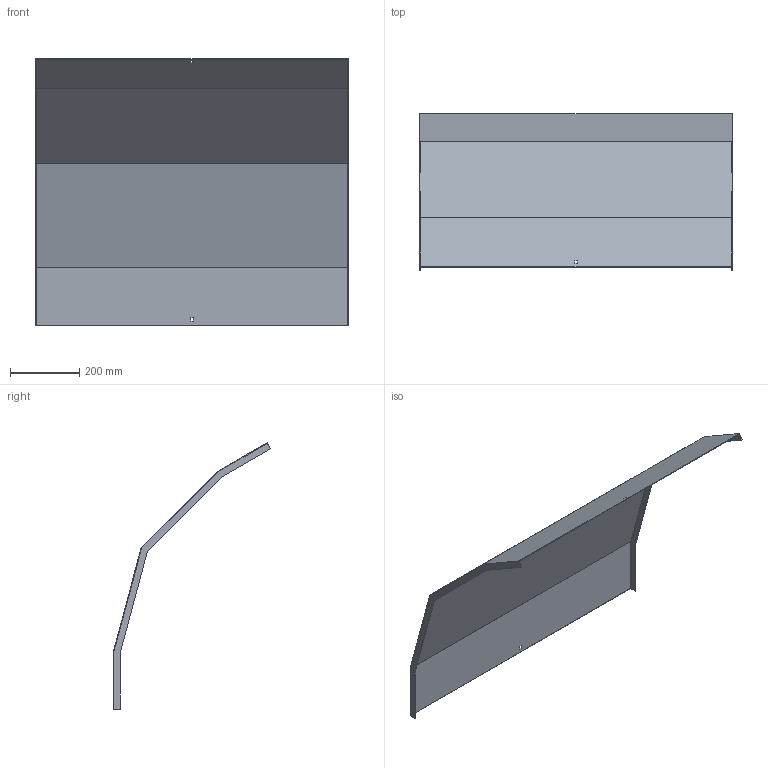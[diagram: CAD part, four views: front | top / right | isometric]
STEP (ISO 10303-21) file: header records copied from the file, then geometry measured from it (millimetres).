
FILE_DESCRIPTION (( 'STEP AP214' ), '1' );
FILE_NAME ('41N5J900.step', '2025-02-21T10:39:03', ( '' ), ( '' ), 'SwSTEP 2.0', 'SolidWorks 2023', '' );
FILE_SCHEMA (( 'AUTOMOTIVE_DESIGN' ));
Length unit declared in the file: millimetre
Products named in the file (1): 41N5J900
Bounding box: 903 x 454.7 x 770.25 mm (x, y, z)
Volume: 1345013.9 mm3; surface area: 1799069.3 mm2
Topology: 1 solids, 1 shells, 30 faces, 84 edges, 56 vertices
Faces by surface type: plane 30
Entity records: 979 total; most frequent: CARTESIAN_POINT 171, ORIENTED_EDGE 168, DIRECTION 146, LINE 84, EDGE_CURVE 84, VECTOR 84, VERTEX_POINT 56, EDGE_LOOP 34
